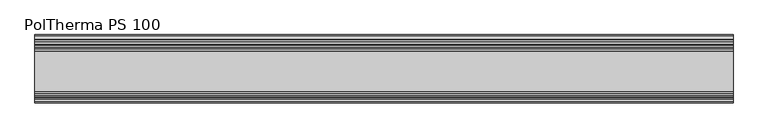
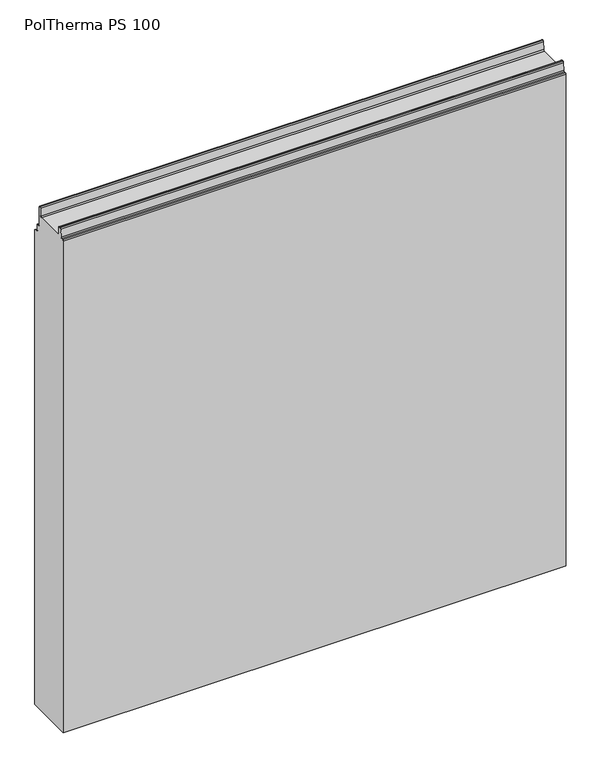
"""IFC4 building model written with IfcOpenShell, lengths in millimetres: plate geometry, Europanels_Poltherma PS_Hz : PolTherma PS 100."""

from ifc_helpers import new_model, si_unit, frame, origin, place, context, project, spatial, polyline, circle_curve, source, transform, mapped, element, save
from ifc_brep_helpers import plane_surface, cylinder_surface, revolved_surface, advanced_brep


def poltherma_ps_100_a50b50c9(model_context):
    return source(origin(), model_context, "Body", "AdvancedBrep", [
        advanced_brep(
        [(512.5, 50.0, 0.0), (512.5, 50.0, 1022.2385671), (512.5, 48.4255288, 1024.3101044), (512.5, 43.7941649, 1025.5968219), (512.5, 42.0, 1027.9574109), (512.5, 42.0, 1038.5271022), (512.5, 39.65, 1040.8771022), (512.5, 36.65, 1040.8771022), (512.5, 34.0, 1043.5271022), (512.5, 34.0, 1082.1367317), (512.5, 31.7657157, 1084.2363881), (512.5, 29.6717693, 1082.2998467), (512.5, 28.9864093, 1065.781124), (512.5, 26.3385145, 1063.2367317), (512.5, -33.7011224, 1063.2367317), (512.5, -34.4432694, 1079.8261148), (512.5, -36.4412711, 1081.7367317), (512.5, -39.1905122, 1081.7367317), (512.5, -41.1863232, 1079.8661089), (512.5, -42.2402866, 1063.6073545), (512.5, -44.2360976, 1061.7367317), (512.5, -47.9973085, 1061.7367317), (512.5, -49.9973085, 1059.7367317), (512.5, -50.0, 0.0), (-512.5, 50.0, 0.0), (-512.5, -50.0, 0.0), (-512.5, -50.0, 1059.7367317), (-512.5, -47.9973085, 1061.7367317), (-512.5, -44.2360976, 1061.7367317), (-512.5, -42.2402866, 1063.6073545), (-512.5, -41.1863232, 1079.8661089), (-512.5, -39.1905122, 1081.7367317), (-512.5, -36.4412711, 1081.7367317), (-512.5, -34.4432694, 1079.8261148), (-512.5, -33.7011224, 1063.2367317), (-512.5, 26.3385145, 1063.2367317), (-512.5, 28.9864093, 1065.781124), (-512.5, 29.6452624, 1082.300507), (-512.5, 31.7657157, 1084.2363881), (-512.5, 33.9748677, 1082.1374188), (-512.5, 34.0, 1043.5271022), (-512.5, 36.65, 1040.8771022), (-512.5, 39.65, 1040.8771022), (-512.5, 42.0, 1038.5271022), (-512.5, 42.0, 1027.9574109), (-512.5, 43.7941649, 1025.5968219), (-512.5, 48.4255288, 1024.3101044), (-512.5, 50.0, 1022.2385671)],
        [
            (0, 1),
            (1, 2, circle_curve(frame((512.5, 47.85, 1022.2385671), z_axis=(1.0, 0.0, 0.0), x_axis=(0.0, 1.0, 0.0)), 2.15)),
            (2, 3),
            (3, 4, circle_curve(frame((512.5, 44.45, 1027.9574109), z_axis=(-1.0, 0.0, 0.0), x_axis=(0.0, 1.0, 0.0)), 2.45)),
            (4, 5),
            (5, 6, circle_curve(frame((512.5, 39.65, 1038.5271022), z_axis=(1.0, 0.0, 0.0), x_axis=(0.0, 1.0, 0.0)), 2.35)),
            (6, 7),
            (7, 8, circle_curve(frame((512.5, 36.65, 1043.5271022), z_axis=(-1.0, 0.0, 0.0), x_axis=(0.0, 1.0, 0.0)), 2.65)),
            (8, 9),
            (9, 10, circle_curve(frame((512.5, 31.8731507, 1082.1374188), z_axis=(1.0, 0.0, 0.0), x_axis=(0.0, 1.0, 0.0)), 2.101717)),
            (10, 11, circle_curve(frame((512.5, 31.7657157, 1082.1360446), z_axis=(1.0, 0.0, 0.0), x_axis=(0.0, 1.0, 0.0)), 2.1003435)),
            (11, 12),
            (12, 13, circle_curve(frame((512.5, 26.3385145, 1065.8867317), z_axis=(-1.0, 0.0, 0.0), x_axis=(0.0, 1.0, 0.0)), 2.65)),
            (13, 14),
            (14, 15),
            (15, 16, circle_curve(frame((512.5, -36.4412711, 1079.7367317), z_axis=(1.0, 0.0, 0.0), x_axis=(0.0, 1.0, 0.0)), 2.0)),
            (16, 17),
            (17, 18, circle_curve(frame((512.5, -39.1905122, 1079.7367317), z_axis=(1.0, 0.0, 0.0), x_axis=(0.0, 1.0, 0.0)), 2.0)),
            (18, 19),
            (19, 20, circle_curve(frame((512.5, -44.2360976, 1063.7367317), z_axis=(-1.0, 0.0, 0.0), x_axis=(0.0, 1.0, 0.0)), 2.0)),
            (20, 21),
            (21, 22, circle_curve(frame((512.5, -47.9973085, 1059.7367317), z_axis=(1.0, 0.0, 0.0), x_axis=(0.0, 1.0, 0.0)), 2.0)),
            (22, 23),
            (23, 0),
            (24, 25),
            (25, 26),
            (26, 27, circle_curve(frame((-512.5, -47.9973085, 1059.7367317), z_axis=(-1.0, 0.0, 0.0), x_axis=(0.0, 1.0, 0.0)), 2.0)),
            (27, 28),
            (28, 29, circle_curve(frame((-512.5, -44.2360976, 1063.7367317), z_axis=(1.0, 0.0, 0.0), x_axis=(0.0, 1.0, 0.0)), 2.0)),
            (29, 30),
            (30, 31, circle_curve(frame((-512.5, -39.1905122, 1079.7367317), z_axis=(-1.0, 0.0, 0.0), x_axis=(0.0, 1.0, 0.0)), 2.0)),
            (31, 32),
            (32, 33, circle_curve(frame((-512.5, -36.4412711, 1079.7367317), z_axis=(-1.0, 0.0, 0.0), x_axis=(0.0, 1.0, 0.0)), 2.0)),
            (33, 34),
            (34, 35),
            (35, 36, circle_curve(frame((-512.5, 26.3385145, 1065.8867317), z_axis=(1.0, 0.0, 0.0), x_axis=(0.0, 1.0, 0.0)), 2.65)),
            (36, 37),
            (37, 38, circle_curve(frame((-512.5, 31.7657157, 1082.1360446), z_axis=(-1.0, 0.0, 0.0), x_axis=(0.0, 1.0, 0.0)), 2.1003435)),
            (38, 39, circle_curve(frame((-512.5, 31.8731507, 1082.1374188), z_axis=(-1.0, 0.0, 0.0), x_axis=(0.0, 1.0, 0.0)), 2.101717)),
            (39, 40),
            (40, 41, circle_curve(frame((-512.5, 36.65, 1043.5271022), z_axis=(1.0, 0.0, 0.0), x_axis=(0.0, 1.0, 0.0)), 2.65)),
            (41, 42),
            (42, 43, circle_curve(frame((-512.5, 39.65, 1038.5271022), z_axis=(-1.0, 0.0, 0.0), x_axis=(0.0, 1.0, 0.0)), 2.35)),
            (43, 44),
            (44, 45, circle_curve(frame((-512.5, 44.45, 1027.9574109), z_axis=(1.0, 0.0, 0.0), x_axis=(0.0, 1.0, 0.0)), 2.45)),
            (45, 46),
            (46, 47, circle_curve(frame((-512.5, 47.85, 1022.2385671), z_axis=(-1.0, 0.0, 0.0), x_axis=(0.0, 1.0, 0.0)), 2.15)),
            (47, 24),
            (0, 24),
            (47, 1),
            (46, 2),
            (45, 3),
            (44, 4),
            (43, 5),
            (42, 6),
            (41, 7),
            (40, 8),
            (39, 9),
            (38, 10),
            (37, 11),
            (36, 12),
            (35, 13),
            (34, 14),
            (33, 15),
            (32, 16),
            (31, 17),
            (30, 18),
            (29, 19),
            (28, 20),
            (27, 21),
            (26, 22),
            (25, 23),
        ],
        [
            plane_surface(frame((512.5, 50.0, 1022.2385671), z_axis=(1.0, 0.0, 0.0), x_axis=(0.0, 0.0, 1.0))),
            plane_surface(frame((-512.5, 50.0, 1022.2385671), z_axis=(-1.0, 0.0, 0.0), x_axis=(0.0, 0.0, -1.0))),
            plane_surface(frame((512.5, 50.0, 0.0), z_axis=(0.0, 1.0, 0.0), x_axis=(-1.0, 0.0, 0.0))),
            cylinder_surface(frame((-512.5, 47.85, 1022.2385671), z_axis=(1.0, 0.0, 0.0), x_axis=(0.0, 1.0, 0.0)), 2.15),
            plane_surface(frame((512.5, 48.4255288, 1024.3101044), z_axis=(0.0, 0.26768780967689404, 0.963505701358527), x_axis=(-1.0, 0.0, 0.0))),
            revolved_surface(polyline([(-512.5, 46.900000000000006, 1027.9574109), (512.5, 46.900000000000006, 1027.9574109)]), (-512.5, 44.45, 1027.9574109), (-1.0, 0.0, 0.0)),
            plane_surface(frame((512.5, 42.0, 1027.9574109), z_axis=(0.0, 1.0, 0.0), x_axis=(-1.0, 0.0, 0.0))),
            cylinder_surface(frame((-512.5, 39.65, 1038.5271022), z_axis=(1.0, 0.0, 0.0), x_axis=(0.0, 1.0, 0.0)), 2.35),
            plane_surface(frame((512.5, 39.65, 1040.8771022), z_axis=(0.0, 0.0, 1.0), x_axis=(-1.0, 0.0, 0.0))),
            revolved_surface(polyline([(-512.5, 39.3, 1043.5271022), (512.5, 39.3, 1043.5271022)]), (-512.5, 36.65, 1043.5271022), (-1.0, 0.0, 0.0)),
            plane_surface(frame((512.5, 34.0, 1043.5271022), z_axis=(0.0, 1.0, 0.0), x_axis=(-1.0, 0.0, 0.0))),
            cylinder_surface(frame((-512.5, 31.8731507, 1082.1374188), z_axis=(1.0, 0.0, 0.0), x_axis=(0.0, 1.0, 0.0)), 2.101717),
            cylinder_surface(frame((-512.5, 31.7657157, 1082.1360446), z_axis=(1.0, 0.0, 0.0), x_axis=(0.0, 1.0, 0.0)), 2.1003435),
            plane_surface(frame((512.5, 29.6452624, 1082.300507), z_axis=(0.0, -0.9992055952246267, 0.039851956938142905), x_axis=(-1.0, 0.0, 0.0))),
            revolved_surface(polyline([(-512.5, 28.988514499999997, 1065.8867317), (512.5, 28.988514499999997, 1065.8867317)]), (-512.5, 26.3385145, 1065.8867317), (-1.0, 0.0, 0.0)),
            plane_surface(frame((512.5, 26.3385145, 1063.2367317), z_axis=(0.0, 0.0, 1.0), x_axis=(-1.0, 0.0, 0.0))),
            plane_surface(frame((512.5, -33.7011224, 1063.2367317), z_axis=(0.0, 0.9990008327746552, 0.04469156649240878), x_axis=(-1.0, 0.0, 0.0))),
            cylinder_surface(frame((-512.5, -36.4412711, 1079.7367317), z_axis=(1.0, 0.0, 0.0), x_axis=(0.0, 1.0, 0.0)), 2.0),
            plane_surface(frame((512.5, -36.4412711, 1081.7367317), z_axis=(0.0, 0.0, 1.0), x_axis=(-1.0, 0.0, 0.0))),
            cylinder_surface(frame((-512.5, -39.1905122, 1079.7367317), z_axis=(1.0, 0.0, 0.0), x_axis=(0.0, 1.0, 0.0)), 2.0),
            plane_surface(frame((512.5, -41.1863232, 1079.8661089), z_axis=(0.0, -0.9979054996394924, 0.06468859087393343), x_axis=(-1.0, 0.0, 0.0))),
            revolved_surface(polyline([(-512.5, -42.2360976, 1063.7367317), (512.5, -42.2360976, 1063.7367317)]), (-512.5, -44.2360976, 1063.7367317), (-1.0, 0.0, 0.0)),
            plane_surface(frame((512.5, -44.2360976, 1061.7367317), z_axis=(0.0, 0.0, 1.0), x_axis=(-1.0, 0.0, 0.0))),
            cylinder_surface(frame((-512.5, -47.9973085, 1059.7367317), z_axis=(1.0, 0.0, 0.0), x_axis=(0.0, 1.0, 0.0)), 2.0),
            plane_surface(frame((512.5, -50.0, 1059.7367317), z_axis=(0.0, -1.0, 0.0), x_axis=(-1.0, 0.0, 0.0))),
            plane_surface(frame((512.5, -50.0, 0.0), z_axis=(0.0, 0.0, -1.0), x_axis=(-1.0, 0.0, 0.0))),
        ],
        [
            (0, [[1, 2, 3, 4, 5, 6, 7, 8, 9, 10, 11, 12, 13, 14, 15, 16, 17, 18, 19, 20, 21, 22, 23, 24]]),
            (1, [[25, 26, 27, 28, 29, 30, 31, 32, 33, 34, 35, 36, 37, 38, 39, 40, 41, 42, 43, 44, 45, 46, 47, 48]]),
            (2, [[-1, 49, -48, 50]]),
            (3, [[-2, -50, -47, 51]]),
            (4, [[-3, -51, -46, 52]]),
            (5, [[-4, -52, -45, 53]]),
            (6, [[-5, -53, -44, 54]]),
            (7, [[-6, -54, -43, 55]]),
            (8, [[-7, -55, -42, 56]]),
            (9, [[-8, -56, -41, 57]]),
            (10, [[-9, -57, -40, 58]]),
            (11, [[-10, -58, -39, 59]]),
            (12, [[-11, -59, -38, 60]]),
            (13, [[-12, -60, -37, 61]]),
            (14, [[-13, -61, -36, 62]]),
            (15, [[-14, -62, -35, 63]]),
            (16, [[-15, -63, -34, 64]]),
            (17, [[-16, -64, -33, 65]]),
            (18, [[-17, -65, -32, 66]]),
            (19, [[-18, -66, -31, 67]]),
            (20, [[-19, -67, -30, 68]]),
            (21, [[-20, -68, -29, 69]]),
            (22, [[-21, -69, -28, 70]]),
            (23, [[-22, -70, -27, 71]]),
            (24, [[-23, -71, -26, 72]]),
            (25, [[-24, -72, -25, -49]]),
        ],
    ),
    ])


if __name__ == "__main__":
    model = new_model("IFC4")
    model_context = context("Model", 3, world=origin())
    ifc_project = project(units=[si_unit("LENGTHUNIT", "METRE", prefix="MILLI")], contexts=[model_context])
    site = spatial("IfcSite", under=ifc_project)
    building = spatial("IfcBuilding", under=site)
    placement = place(None, origin())
    poltherma_ps_100_shape = poltherma_ps_100_a50b50c9(model_context)
    element("IfcPlate", 1, ObjectType="Europanels_Poltherma PS_Hz : PolTherma PS 100", at=placement, inside=building, context=model_context, shape_type="MappedRepresentation", body=[
        mapped(poltherma_ps_100_shape, transform((0.0, 0.0, 0.0), x_axis=(1.0, 0.0, 0.0), y_axis=(0.0, 1.0, 0.0), z_axis=(0.0, 0.0, 1.0))),
    ])
    save(model, "model.ifc")
